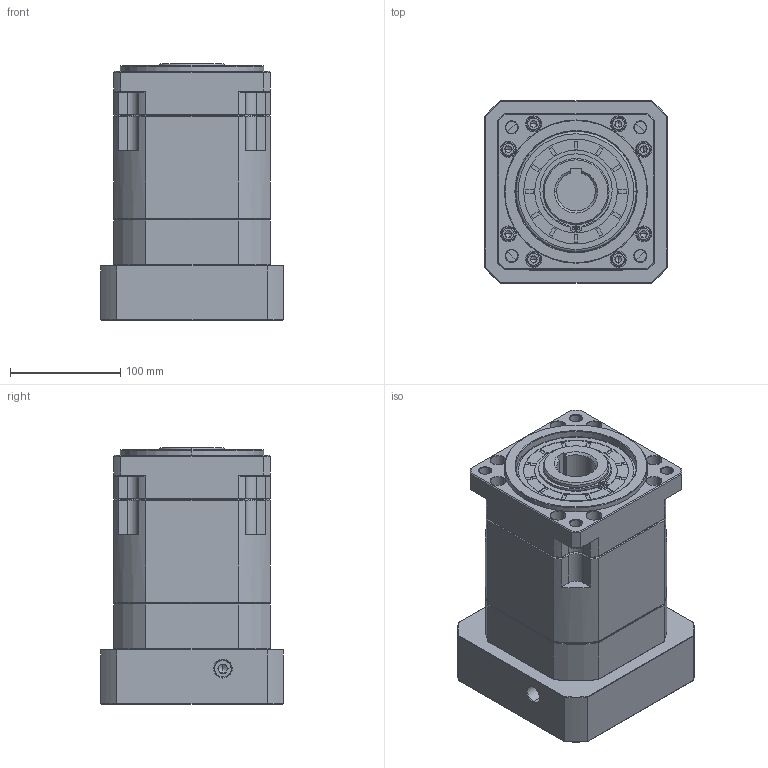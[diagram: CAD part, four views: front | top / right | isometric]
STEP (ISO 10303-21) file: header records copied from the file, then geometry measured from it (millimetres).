
FILE_DESCRIPTION (( 'STEP AP214' ), '1' );
FILE_NAME ('ZB142A-K35-L2-32-150-185-M10.step', '2023-03-17T10:49:47', ( '' ), ( '' ), 'SwSTEP 2.0', 'SolidWorks 2016', '' );
FILE_SCHEMA (( 'AUTOMOTIVE_DESIGN' ));
Length unit declared in the file: millimetre
Products named in the file (1): ZB142A-K35-L2-32-150-185-M10
Bounding box: 166 x 166 x 233.2 mm (x, y, z)
Volume: 4148522.9 mm3; surface area: 319222.4 mm2
Topology: 6 solids, 6 shells, 1983 faces, 5249 edges, 3364 vertices
Faces by surface type: plane 916, cylinder 395, cone 346, bspline 306, torus 20
Entity records: 106960 total; most frequent: CARTESIAN_POINT 38368, ORIENTED_EDGE 10442, DIRECTION 8622, EDGE_CURVE 5221, VERTEX_POINT 3364, LINE 3224, VECTOR 3224, AXIS2_PLACEMENT_3D 2699
